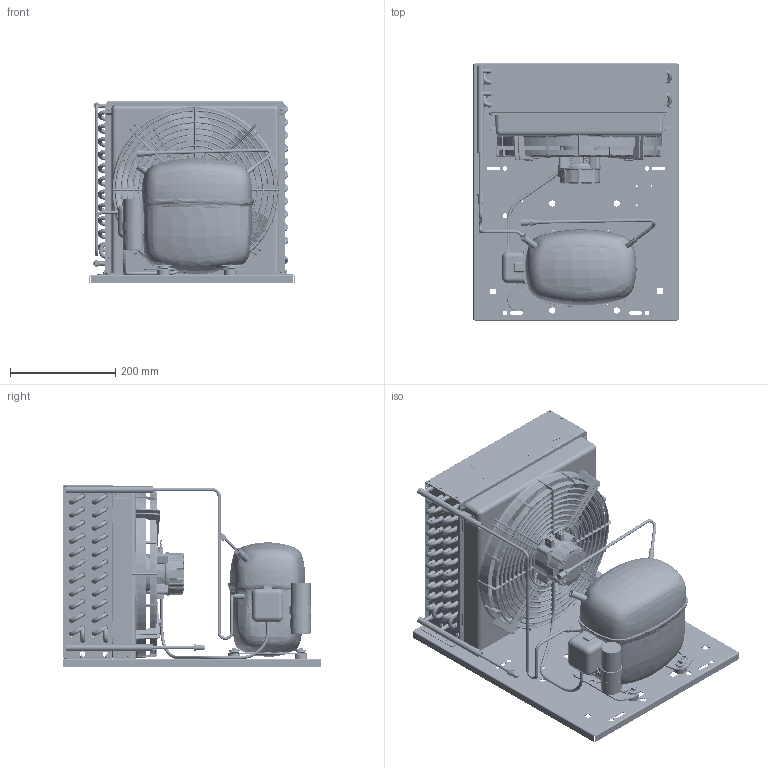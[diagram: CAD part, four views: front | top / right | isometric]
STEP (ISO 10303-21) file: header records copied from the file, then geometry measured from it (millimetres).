
FILE_DESCRIPTION(/* description */ ('Unknown'),/* implementation_level */ '2;1');
FILE_NAME(/* name */ '2298-0006',/* time_stamp */ '2022-01-10T15:04:42+01:00',/* author */ ('Unknown'),/* organization */ ('Unknown'),/* preprocessor_version */ 'ST-DEVELOPER v16.7',/* originating_system */ 'Solid Edge',/* authorisation */ 'Unknown');
FILE_SCHEMA (('AUTOMOTIVE_DESIGN {1 0 10303 214 3 1 1}'));
Products named in the file (50): 2298-0006; 92505124; 1340315f70_0; r50115706_0; r50115707_0; 2990210_3; r59700361_0; r50115701_0; r50095108_0; r50115604_0; cg300n_0; a300-19_0; a300-19_costruzione_oa_0; a300-19_costruzione_oa_1_0; a300-19_costruzione_oa_2_0; a300-19_costruzione_oa_3_0; a300-19_costruzione_oa_4_0; 62010155_3_oa_0; 99540010_1; 84a4.2x9.5xtbcf01_3; sc18cl-a-csr_piedino_3; 84RM10X21XXPIAF00_3; 84v1.8x35xxcopf00_3; 670060100; 99540005; 99510248_05_1; 8351_2_3; 8392_A_3; 99510248_tubo_04_1; 84t4.8x8xxxtcca00_oa_5; 84t4.8x8xxxtcca00_oa_6_0; 84t4.8x8xxxtcca00_oa_7_0; 84t4.8x8xxxtcca00_oa_8_0; 84dm4x3.6xxesrf00_3; 99000082_secop_3; 680063704_0; 9221-0002_3; sc15mlx-a-csir; sc15mlx-a-csir_104B0078_ASM_1; sc15mlx-a-csir_104B0605_1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
Assembly tree (112 placements, depth 4):
  2298-0006
    92505124
    1340315f70_0
      r50115706_0
      r50115707_0
      2990210_3  x24
      r59700361_0  x24
      r50115701_0
      r50095108_0
      r50115604_0  x2
    cg300n_0
    a300-19_0
      a300-19_costruzione_oa_0
      a300-19_costruzione_oa_1_0
      a300-19_costruzione_oa_2_0
      a300-19_costruzione_oa_3_0
      a300-19_costruzione_oa_4_0
    62010155_3_oa_0
    99540010_1
    84a4.2x9.5xtbcf01_3  x4
    sc18cl-a-csr_piedino_3  x4
    84RM10X21XXPIAF00_3  x4
    84v1.8x35xxcopf00_3  x4
    670060100
    99540005
    99510248_05_1
      8351_2_3
      8392_A_3
      99510248_tubo_04_1
    84t4.8x8xxxtcca00_oa_5
    84t4.8x8xxxtcca00_oa_6_0
    84t4.8x8xxxtcca00_oa_7_0
    84t4.8x8xxxtcca00_oa_8_0
    84dm4x3.6xxesrf00_3  x4
    99000082_secop_3
    680063704_0
    9221-0002_3
    sc15mlx-a-csir
      sc15mlx-a-csir_104B0078_ASM_1
        sc15mlx-a-csir_104B0605_1
        sc15mlx-a-csir_104B0494_1
        sc15mlx-a-csir_103B0887_1
      sc15mlx-a-csir_104B1402_1
      sc15mlx-a-csir_104B0321_1  x2
      sc15mlx-a-csir_104B0485_1
      sc15mlx-a-csir_103N0510_1
      sc15mlx-a-csir_103N2009_1
      sc15mlx-a-csir_117U5017_1
    99000082_SECOP_F-GAS_3
    2298-0006_CAVO_VENTOLA
Bounding box: 390 x 490 x 345.32 mm (x, y, z)
Volume: 9271880.7 mm3; surface area: 3400424.2 mm2
Topology: 106 solids, 107 shells, 11366 faces, 29371 edges, 18653 vertices
Faces by surface type: plane 4905, cylinder 2302, bspline 1791, torus 1434, cone 834, sphere 100
Full cylindrical faces by diameter (mm): 0.5 x1, 1 x1, 1.8 x20, 2.2 x4, 2.45 x6, 2.7 x4, 3 x4, 3.14 x6, 3.2 x2, 3.242 x4, 3.5 x13, 3.6 x4, 4 x27, 4.2 x12, 4.205 x11, 4.5 x6, 4.66 x4, 4.7 x4, 4.95 x1, 5 x7, 5.42 x1, 5.5 x9, 5.6 x1, 6 x15, 6.5 x2, 6.6 x4, 6.93 x48, 7 x10, 7.2 x2, 7.33 x48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
Entity records: 533398 total; most frequent: CARTESIAN_POINT 271613, ORIENTED_EDGE 52424, DIRECTION 42432, EDGE_CURVE 26212, VERTEX_POINT 17258, AXIS2_PLACEMENT_3D 15219, EDGE_LOOP 12910, FACE_BOUND 12910
